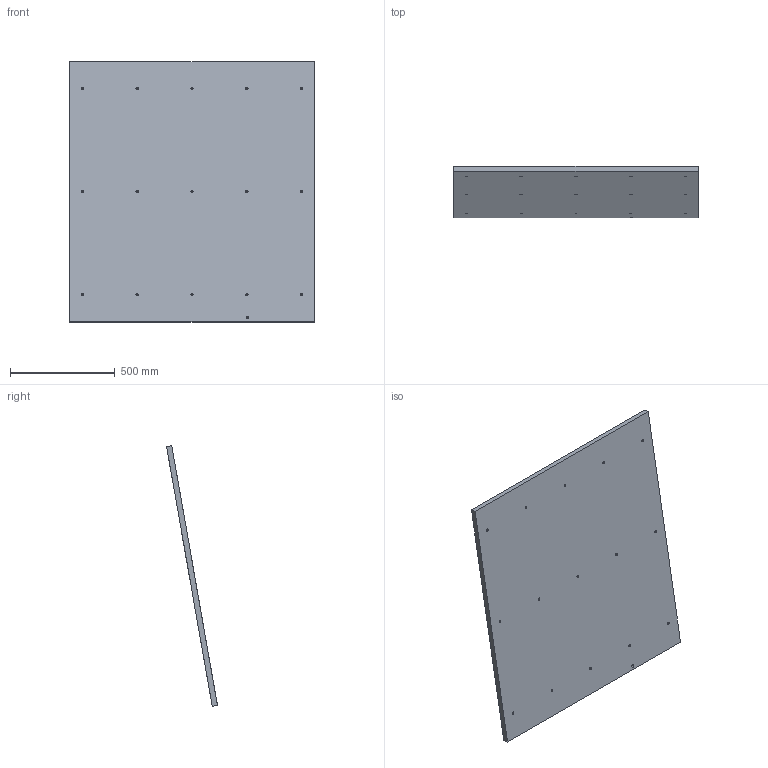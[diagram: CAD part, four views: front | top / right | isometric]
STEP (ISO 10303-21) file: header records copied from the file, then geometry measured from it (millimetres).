
FILE_DESCRIPTION(('golf model'),'2;1');
FILE_NAME('golf','',(''),(''),'golf_step_io','golf','');
FILE_SCHEMA(('AUTOMOTIVE_DESIGN { 1 0 10303 214 1 1 1 1 }'));
Length unit declared in the file: millimetre
Products named in the file (2): ASSEMBLY; bed.spoilboard.1
Assembly tree (1 placements, depth 2):
  ASSEMBLY
    bed.spoilboard.1
Bounding box: 1169.75 x 243.42 x 1245.2 mm (x, y, z)
Volume: 36831008.2 mm3; surface area: 3076704 mm2
Topology: 1 solids, 1 shells, 52 faces, 105 edges, 70 vertices
Faces by surface type: cylinder 31, plane 21
Full cylindrical faces by diameter (mm): 4.6 x15, 11 x15, 12 x1
Entity records: 1334 total; most frequent: DIRECTION 244, CARTESIAN_POINT 198, ORIENTED_EDGE 148, EDGE_LOOP 130, AXIS2_PLACEMENT_3D 116, FACE_BOUND 113, EDGE_CURVE 74, VERTEX_POINT 70
